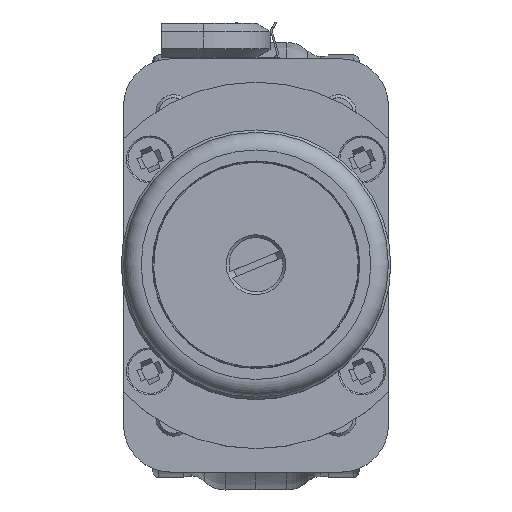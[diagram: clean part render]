
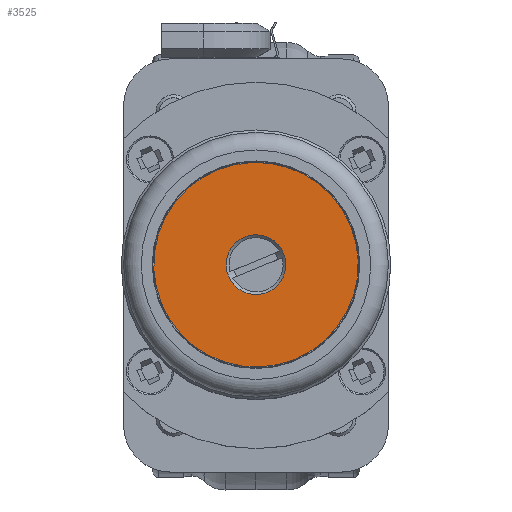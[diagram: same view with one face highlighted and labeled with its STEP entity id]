
A CAD part, top view. The second image highlights one B-rep face of the part: STEP entity #3525.
In plain terms, the highlighted planar face has unit normal (0, 0, 1) as drawn and (1, 0, 0) by its records, which use the part's own axes.
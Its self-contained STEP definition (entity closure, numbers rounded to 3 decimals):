
#3525=ADVANCED_FACE('',(#5863,#5864),#3941,.T.);
#3941=PLANE('',#12683);
#5863=FACE_BOUND('',#6461,.T.);
#5864=FACE_BOUND('',#6462,.T.);
#6461=EDGE_LOOP('',(#8294));
#6462=EDGE_LOOP('',(#8295));
#8294=ORIENTED_EDGE('',*,*,#11134,.T.);
#8295=ORIENTED_EDGE('',*,*,#11135,.F.);
#9996=VERTEX_POINT('',#24134);
#9997=VERTEX_POINT('',#24136);
#11134=EDGE_CURVE('',#9996,#9996,#11983,.T.);
#11135=EDGE_CURVE('',#9997,#9997,#11984,.T.);
#11983=CIRCLE('',#12681,5.075);
#11984=CIRCLE('',#12682,17.375);
#12681=AXIS2_PLACEMENT_3D('',#24133,#14606,#14607);
#12682=AXIS2_PLACEMENT_3D('',#24135,#14608,#14609);
#12683=AXIS2_PLACEMENT_3D('',#24137,#14610,#14611);
#14606=DIRECTION('',(-1.,0.,0.));
#14607=DIRECTION('',(0.,0.,1.));
#14608=DIRECTION('',(-1.,0.,0.));
#14609=DIRECTION('',(0.,0.,1.));
#14610=DIRECTION('',(1.,0.,0.));
#14611=DIRECTION('',(0.,0.,-1.));
#24133=CARTESIAN_POINT('',(12.1,0.,0.));
#24134=CARTESIAN_POINT('',(12.1,0.,5.075));
#24135=CARTESIAN_POINT('',(12.1,0.,0.));
#24136=CARTESIAN_POINT('',(12.1,0.,17.375));
#24137=CARTESIAN_POINT('',(12.1,17.375,0.));
